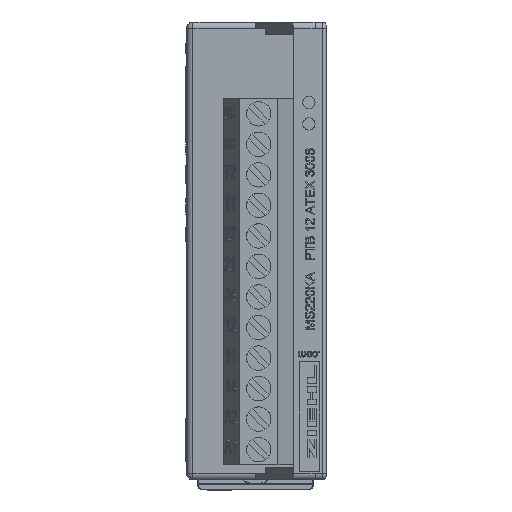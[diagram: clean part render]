
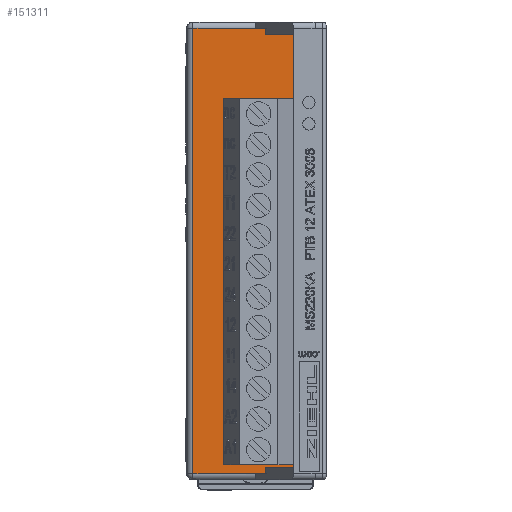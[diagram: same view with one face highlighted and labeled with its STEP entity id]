
A CAD part, left-side view. The second image highlights one B-rep face of the part: STEP entity #151311.
In plain terms, the highlighted planar face has unit normal (-1, 0, 0) as drawn and (1, 0, 0) by its records, which use the part's own axes.
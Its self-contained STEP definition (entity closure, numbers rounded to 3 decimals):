
#560 = CARTESIAN_POINT ( 'NONE',  ( 30., -16.3, 36.5 ) ) ;
#841 = VECTOR ( 'NONE', #42591, 1000. ) ;
#2144 = VECTOR ( 'NONE', #73115, 1000. ) ;
#3594 = DIRECTION ( 'NONE',  ( 0., 0., 1. ) ) ;
#5690 = CARTESIAN_POINT ( 'NONE',  ( 30., -14.3, 35.5 ) ) ;
#8827 = VERTEX_POINT ( 'NONE', #18687 ) ;
#8840 = EDGE_CURVE ( 'NONE', #115894, #37463, #64201, .T. ) ;
#8909 = EDGE_CURVE ( 'NONE', #27664, #51684, #77161, .T. ) ;
#9010 = LINE ( 'NONE', #133158, #68598 ) ;
#9983 = VERTEX_POINT ( 'NONE', #138434 ) ;
#18687 = CARTESIAN_POINT ( 'NONE',  ( 30., -14.3, -36.5 ) ) ;
#21122 = CARTESIAN_POINT ( 'NONE',  ( 30., -16.3, -36.5 ) ) ;
#23260 = VERTEX_POINT ( 'NONE', #24940 ) ;
#24940 = CARTESIAN_POINT ( 'NONE',  ( 30., -10.082, -36.5 ) ) ;
#25937 = LINE ( 'NONE', #102091, #148786 ) ;
#27664 = VERTEX_POINT ( 'NONE', #74299 ) ;
#27668 = ORIENTED_EDGE ( 'NONE', *, *, #52095, .T. ) ;
#29051 = DIRECTION ( 'NONE',  ( 0., 0., 1. ) ) ;
#29067 = VECTOR ( 'NONE', #29051, 1000. ) ;
#29088 = VECTOR ( 'NONE', #64993, 1000. ) ;
#30054 = VECTOR ( 'NONE', #138864, 1000. ) ;
#30794 = DIRECTION ( 'NONE',  ( 0., 0., 1. ) ) ;
#36481 = DIRECTION ( 'NONE',  ( 0., 1., 0. ) ) ;
#37463 = VERTEX_POINT ( 'NONE', #83897 ) ;
#38967 = CARTESIAN_POINT ( 'NONE',  ( 30., 1.2, 37.5 ) ) ;
#39838 = EDGE_CURVE ( 'NONE', #37463, #63218, #40285, .T. ) ;
#40285 = LINE ( 'NONE', #5690, #29088 ) ;
#40650 = CARTESIAN_POINT ( 'NONE',  ( 30., -16.3, -35.5 ) ) ;
#42591 = DIRECTION ( 'NONE',  ( 0., 1., 0. ) ) ;
#45034 = DIRECTION ( 'NONE',  ( 0., 1., 0. ) ) ;
#47984 = CARTESIAN_POINT ( 'NONE',  ( 30., -14.3, 36.5 ) ) ;
#49818 = DIRECTION ( 'NONE',  ( 0., -1., 0. ) ) ;
#51684 = VERTEX_POINT ( 'NONE', #40650 ) ;
#52095 = EDGE_CURVE ( 'NONE', #85591, #77954, #9010, .T. ) ;
#54467 = EDGE_CURVE ( 'NONE', #8827, #23260, #147635, .T. ) ;
#61540 = EDGE_LOOP ( 'NONE', ( #119202, #27668, #66760, #70833, #149432, #130626, #130456, #75038, #65975, #123843 ) ) ;
#63218 = VERTEX_POINT ( 'NONE', #47984 ) ;
#64201 = LINE ( 'NONE', #101925, #841 ) ;
#64993 = DIRECTION ( 'NONE',  ( 0., 0., 1. ) ) ;
#65975 = ORIENTED_EDGE ( 'NONE', *, *, #54467, .T. ) ;
#66760 = ORIENTED_EDGE ( 'NONE', *, *, #94787, .F. ) ;
#68598 = VECTOR ( 'NONE', #49818, 1000. ) ;
#70833 = ORIENTED_EDGE ( 'NONE', *, *, #39838, .F. ) ;
#72616 = VECTOR ( 'NONE', #36481, 1000. ) ;
#73115 = DIRECTION ( 'NONE',  ( 0., 1., 0. ) ) ;
#74299 = CARTESIAN_POINT ( 'NONE',  ( 30., -14.3, -35.5 ) ) ;
#74851 = DIRECTION ( 'NONE',  ( -1., 0., 0. ) ) ;
#75038 = ORIENTED_EDGE ( 'NONE', *, *, #133371, .F. ) ;
#77161 = LINE ( 'NONE', #91497, #80870 ) ;
#77954 = VERTEX_POINT ( 'NONE', #81476 ) ;
#80870 = VECTOR ( 'NONE', #150754, 1000. ) ;
#81476 = CARTESIAN_POINT ( 'NONE',  ( 30., -10.082, 36.5 ) ) ;
#81596 = CARTESIAN_POINT ( 'NONE',  ( 30., -16.3, 35.5 ) ) ;
#82416 = EDGE_CURVE ( 'NONE', #51684, #115894, #124022, .T. ) ;
#83897 = CARTESIAN_POINT ( 'NONE',  ( 30., -14.3, 35.5 ) ) ;
#85591 = VERTEX_POINT ( 'NONE', #90285 ) ;
#90285 = CARTESIAN_POINT ( 'NONE',  ( 30., 0.2, 36.5 ) ) ;
#91497 = CARTESIAN_POINT ( 'NONE',  ( 30., -16.3, -35.5 ) ) ;
#93408 = LINE ( 'NONE', #144278, #2144 ) ;
#94787 = EDGE_CURVE ( 'NONE', #63218, #77954, #108001, .T. ) ;
#101925 = CARTESIAN_POINT ( 'NONE',  ( 30., -16.3, 35.5 ) ) ;
#102091 = CARTESIAN_POINT ( 'NONE',  ( 30., -14.3, -37.5 ) ) ;
#108001 = LINE ( 'NONE', #560, #72616 ) ;
#111074 = FACE_OUTER_BOUND ( 'NONE', #61540, .T. ) ;
#115894 = VERTEX_POINT ( 'NONE', #81596 ) ;
#119202 = ORIENTED_EDGE ( 'NONE', *, *, #125705, .T. ) ;
#121260 = LINE ( 'NONE', #139378, #30054 ) ;
#123745 = CARTESIAN_POINT ( 'NONE',  ( 30., -16.3, 36.5 ) ) ;
#123843 = ORIENTED_EDGE ( 'NONE', *, *, #143939, .T. ) ;
#124022 = LINE ( 'NONE', #123745, #29067 ) ;
#125705 = EDGE_CURVE ( 'NONE', #9983, #85591, #121260, .T. ) ;
#130456 = ORIENTED_EDGE ( 'NONE', *, *, #8909, .F. ) ;
#130626 = ORIENTED_EDGE ( 'NONE', *, *, #82416, .F. ) ;
#133158 = CARTESIAN_POINT ( 'NONE',  ( 30., 1.2, 36.5 ) ) ;
#133371 = EDGE_CURVE ( 'NONE', #8827, #27664, #25937, .T. ) ;
#135512 = AXIS2_PLACEMENT_3D ( 'NONE', #38967, #74851, #3594 ) ;
#138434 = CARTESIAN_POINT ( 'NONE',  ( 30., 0.2, -36.5 ) ) ;
#138864 = DIRECTION ( 'NONE',  ( 0., 0., 1. ) ) ;
#139378 = CARTESIAN_POINT ( 'NONE',  ( 30., 0.2, 37.5 ) ) ;
#143902 = VECTOR ( 'NONE', #45034, 1000. ) ;
#143939 = EDGE_CURVE ( 'NONE', #23260, #9983, #93408, .T. ) ;
#144278 = CARTESIAN_POINT ( 'NONE',  ( 30., 1.2, -36.5 ) ) ;
#146026 = PLANE ( 'NONE',  #135512 ) ;
#147635 = LINE ( 'NONE', #21122, #143902 ) ;
#148786 = VECTOR ( 'NONE', #30794, 1000. ) ;
#149432 = ORIENTED_EDGE ( 'NONE', *, *, #8840, .F. ) ;
#150754 = DIRECTION ( 'NONE',  ( 0., -1., 0. ) ) ;
#151311 = ADVANCED_FACE ( 'NONE', ( #111074 ), #146026, .F. ) ;
